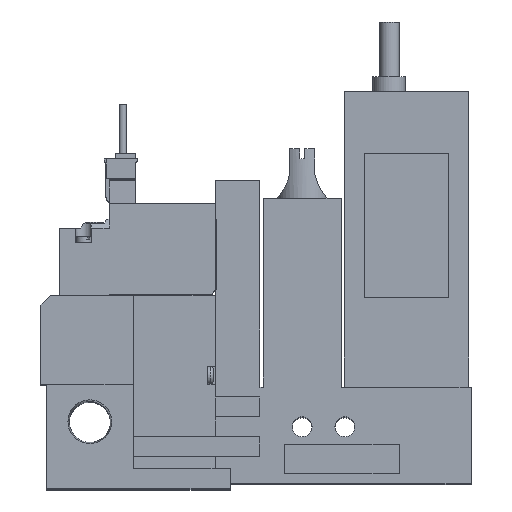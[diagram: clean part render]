
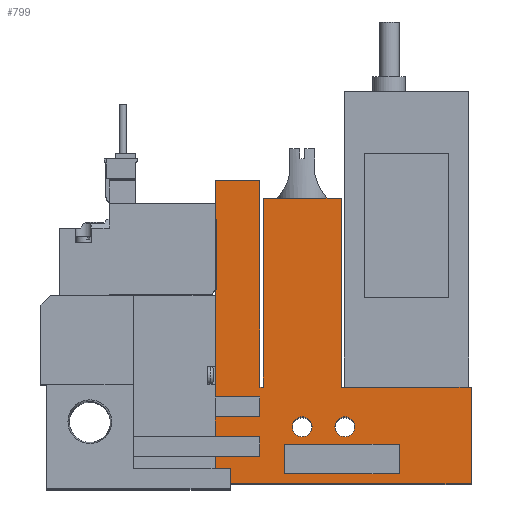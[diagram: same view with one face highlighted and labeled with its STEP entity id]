
A CAD part, top view. The second image highlights one B-rep face of the part: STEP entity #799.
In plain terms, the highlighted planar face has unit normal (0, 0, 1).
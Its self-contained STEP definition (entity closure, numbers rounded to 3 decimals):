
#799=ADVANCED_FACE('',(#1606,#1607,#1608,#1609),#1610,.T.);
#1606=FACE_OUTER_BOUND('',#2703,.T.);
#1607=FACE_BOUND('',#2704,.T.);
#1608=FACE_BOUND('',#2705,.T.);
#1609=FACE_BOUND('',#2706,.T.);
#1610=PLANE('',#2707);
#2703=EDGE_LOOP('',(#5546,#5547,#5548,#5549,#5550,#5551,#5552,#5553,#5554,#5555,#5556,#5557,#5558,#5559,#5560,#5561,#5562,#5563));
#2704=EDGE_LOOP('',(#5564,#5565,#5566,#5567));
#2705=EDGE_LOOP('',(#5568));
#2706=EDGE_LOOP('',(#5569));
#2707=AXIS2_PLACEMENT_3D('',#5570,#5571,#5572);
#5546=ORIENTED_EDGE('',*,*,#7562,.T.);
#5547=ORIENTED_EDGE('',*,*,#7504,.T.);
#5548=ORIENTED_EDGE('',*,*,#7462,.T.);
#5549=ORIENTED_EDGE('',*,*,#7561,.T.);
#5550=ORIENTED_EDGE('',*,*,#7559,.T.);
#5551=ORIENTED_EDGE('',*,*,#7467,.T.);
#5552=ORIENTED_EDGE('',*,*,#7546,.T.);
#5553=ORIENTED_EDGE('',*,*,#7563,.T.);
#5554=ORIENTED_EDGE('',*,*,#7564,.T.);
#5555=ORIENTED_EDGE('',*,*,#7496,.T.);
#5556=ORIENTED_EDGE('',*,*,#7565,.T.);
#5557=ORIENTED_EDGE('',*,*,#7566,.T.);
#5558=ORIENTED_EDGE('',*,*,#7506,.T.);
#5559=ORIENTED_EDGE('',*,*,#7567,.T.);
#5560=ORIENTED_EDGE('',*,*,#7457,.T.);
#5561=ORIENTED_EDGE('',*,*,#7530,.T.);
#5562=ORIENTED_EDGE('',*,*,#7568,.T.);
#5563=ORIENTED_EDGE('',*,*,#7569,.T.);
#5564=ORIENTED_EDGE('',*,*,#7570,.T.);
#5565=ORIENTED_EDGE('',*,*,#7571,.T.);
#5566=ORIENTED_EDGE('',*,*,#7572,.T.);
#5567=ORIENTED_EDGE('',*,*,#7573,.T.);
#5568=ORIENTED_EDGE('',*,*,#7574,.T.);
#5569=ORIENTED_EDGE('',*,*,#7480,.T.);
#5570=CARTESIAN_POINT('',(0.0,0.0,10.0));
#5571=DIRECTION('',(0.0,0.0,1.0));
#5572=DIRECTION('',(1.0,0.0,0.0));
#7457=EDGE_CURVE('',#9044,#9042,#9045,.T.);
#7462=EDGE_CURVE('',#9047,#9052,#9054,.T.);
#7467=EDGE_CURVE('',#9063,#9064,#9065,.T.);
#7480=EDGE_CURVE('',#9088,#9088,#9089,.T.);
#7496=EDGE_CURVE('',#9117,#9115,#9118,.T.);
#7504=EDGE_CURVE('',#9126,#9047,#9132,.T.);
#7506=EDGE_CURVE('',#9135,#9133,#9136,.T.);
#7530=EDGE_CURVE('',#9042,#9176,#9178,.T.);
#7546=EDGE_CURVE('',#9064,#9204,#9206,.T.);
#7559=EDGE_CURVE('',#9223,#9063,#9224,.T.);
#7561=EDGE_CURVE('',#9052,#9223,#9226,.T.);
#7562=EDGE_CURVE('',#9227,#9126,#9228,.T.);
#7563=EDGE_CURVE('',#9204,#9229,#9230,.T.);
#7564=EDGE_CURVE('',#9229,#9117,#9231,.T.);
#7565=EDGE_CURVE('',#9115,#9232,#9233,.T.);
#7566=EDGE_CURVE('',#9232,#9135,#9234,.T.);
#7567=EDGE_CURVE('',#9133,#9044,#9235,.T.);
#7568=EDGE_CURVE('',#9176,#9236,#9237,.T.);
#7569=EDGE_CURVE('',#9236,#9227,#9238,.T.);
#7570=EDGE_CURVE('',#9239,#9240,#9241,.T.);
#7571=EDGE_CURVE('',#9240,#9242,#9243,.T.);
#7572=EDGE_CURVE('',#9242,#9244,#9245,.T.);
#7573=EDGE_CURVE('',#9244,#9239,#9246,.T.);
#7574=EDGE_CURVE('',#9247,#9247,#9248,.T.);
#9042=VERTEX_POINT('',#11590);
#9044=VERTEX_POINT('',#11593);
#9045=LINE('',#11594,#11595);
#9047=VERTEX_POINT('',#11598);
#9052=VERTEX_POINT('',#11605);
#9054=LINE('',#11608,#11609);
#9063=VERTEX_POINT('',#11622);
#9064=VERTEX_POINT('',#11623);
#9065=LINE('',#11624,#11625);
#9088=VERTEX_POINT('',#11660);
#9089=CIRCLE('',#11661,2.0);
#9115=VERTEX_POINT('',#11698);
#9117=VERTEX_POINT('',#11701);
#9118=LINE('',#11702,#11703);
#9126=VERTEX_POINT('',#11715);
#9132=LINE('',#11724,#11725);
#9133=VERTEX_POINT('',#11726);
#9135=VERTEX_POINT('',#11729);
#9136=LINE('',#11730,#11731);
#9176=VERTEX_POINT('',#11792);
#9178=LINE('',#11795,#11796);
#9204=VERTEX_POINT('',#11832);
#9206=LINE('',#11835,#11836);
#9223=VERTEX_POINT('',#11865);
#9224=LINE('',#11866,#11867);
#9226=LINE('',#11870,#11871);
#9227=VERTEX_POINT('',#11872);
#9228=LINE('',#11873,#11874);
#9229=VERTEX_POINT('',#11875);
#9230=LINE('',#11876,#11877);
#9231=LINE('',#11878,#11879);
#9232=VERTEX_POINT('',#11880);
#9233=LINE('',#11881,#11882);
#9234=LINE('',#11883,#11884);
#9235=LINE('',#11885,#11886);
#9236=VERTEX_POINT('',#11887);
#9237=LINE('',#11888,#11889);
#9238=LINE('',#11890,#11891);
#9239=VERTEX_POINT('',#11892);
#9240=VERTEX_POINT('',#11893);
#9241=LINE('',#11894,#11895);
#9242=VERTEX_POINT('',#11896);
#9243=LINE('',#11897,#11898);
#9244=VERTEX_POINT('',#11899);
#9245=LINE('',#11900,#11901);
#9246=LINE('',#11902,#11903);
#9247=VERTEX_POINT('',#11904);
#9248=CIRCLE('',#11905,2.0);
#11590=CARTESIAN_POINT('',(44.75,19.5,10.0));
#11593=CARTESIAN_POINT('',(44.75,57.5,10.0));
#11594=CARTESIAN_POINT('',(44.75,57.5,10.0));
#11595=VECTOR('',#13684,1.0);
#11598=CARTESIAN_POINT('',(44.1,17.5,10.0));
#11605=CARTESIAN_POINT('',(44.1,13.5,10.0));
#11608=CARTESIAN_POINT('',(44.1,0.0,10.0));
#11609=VECTOR('',#13689,1.0);
#11622=CARTESIAN_POINT('',(35.1,9.5,10.0));
#11623=CARTESIAN_POINT('',(44.1,9.5,10.0));
#11624=CARTESIAN_POINT('',(0.0,9.5,10.0));
#11625=VECTOR('',#13694,1.0);
#11660=CARTESIAN_POINT('',(63.2,11.5,10.0));
#11661=AXIS2_PLACEMENT_3D('',#13707,#13708,#13709);
#11698=CARTESIAN_POINT('',(86.6,0.0,10.0));
#11701=CARTESIAN_POINT('',(35.1,0.0,10.0));
#11702=CARTESIAN_POINT('',(18.6,0.0,10.0));
#11703=VECTOR('',#13731,1.0);
#11715=CARTESIAN_POINT('',(35.1,17.5,10.0));
#11724=CARTESIAN_POINT('',(0.0,17.5,10.0));
#11725=VECTOR('',#13739,1.0);
#11726=CARTESIAN_POINT('',(60.45,57.5,10.0));
#11729=CARTESIAN_POINT('',(60.45,19.5,10.0));
#11730=CARTESIAN_POINT('',(60.45,19.5,10.0));
#11731=VECTOR('',#13741,1.0);
#11792=CARTESIAN_POINT('',(44.1,19.5,10.0));
#11795=CARTESIAN_POINT('',(44.75,19.5,10.0));
#11796=VECTOR('',#13767,1.0);
#11832=CARTESIAN_POINT('',(44.1,5.5,10.0));
#11835=CARTESIAN_POINT('',(44.1,0.0,10.0));
#11836=VECTOR('',#13791,1.0);
#11865=CARTESIAN_POINT('',(35.1,13.5,10.0));
#11866=CARTESIAN_POINT('',(35.1,0.0,10.0));
#11867=VECTOR('',#13804,1.0);
#11870=CARTESIAN_POINT('',(0.0,13.5,10.0));
#11871=VECTOR('',#13806,1.0);
#11872=CARTESIAN_POINT('',(35.1,61.0,10.0));
#11873=CARTESIAN_POINT('',(35.1,61.0,10.0));
#11874=VECTOR('',#13807,1.0);
#11875=CARTESIAN_POINT('',(35.1,5.5,10.0));
#11876=CARTESIAN_POINT('',(0.0,5.5,10.0));
#11877=VECTOR('',#13808,1.0);
#11878=CARTESIAN_POINT('',(35.1,0.0,10.0));
#11879=VECTOR('',#13809,1.0);
#11880=CARTESIAN_POINT('',(86.6,19.5,10.0));
#11881=CARTESIAN_POINT('',(86.6,0.0,10.0));
#11882=VECTOR('',#13810,1.0);
#11883=CARTESIAN_POINT('',(86.6,19.5,10.0));
#11884=VECTOR('',#13811,1.0);
#11885=CARTESIAN_POINT('',(60.45,57.5,10.0));
#11886=VECTOR('',#13812,1.0);
#11887=CARTESIAN_POINT('',(44.1,61.0,10.0));
#11888=CARTESIAN_POINT('',(44.1,19.5,10.0));
#11889=VECTOR('',#13813,1.0);
#11890=CARTESIAN_POINT('',(44.1,61.0,10.0));
#11891=VECTOR('',#13814,1.0);
#11892=CARTESIAN_POINT('',(49.1,2.0,10.0));
#11893=CARTESIAN_POINT('',(49.1,8.0,10.0));
#11894=CARTESIAN_POINT('',(49.1,0.0,10.0));
#11895=VECTOR('',#13815,1.0);
#11896=CARTESIAN_POINT('',(72.1,8.0,10.0));
#11897=CARTESIAN_POINT('',(0.0,8.0,10.0));
#11898=VECTOR('',#13816,1.0);
#11899=CARTESIAN_POINT('',(72.1,2.0,10.0));
#11900=CARTESIAN_POINT('',(72.1,0.0,10.0));
#11901=VECTOR('',#13817,1.0);
#11902=CARTESIAN_POINT('',(0.0,2.0,10.0));
#11903=VECTOR('',#13818,1.0);
#11904=CARTESIAN_POINT('',(54.6,11.5,10.0));
#11905=AXIS2_PLACEMENT_3D('',#13819,#13820,#13821);
#13684=DIRECTION('',(0.0,-1.0,0.0));
#13689=DIRECTION('',(0.0,-1.0,0.0));
#13694=DIRECTION('',(1.0,0.0,0.0));
#13707=CARTESIAN_POINT('',(61.2,11.5,10.0));
#13708=DIRECTION('',(0.0,0.0,-1.0));
#13709=DIRECTION('',(1.0,0.0,0.0));
#13731=DIRECTION('',(1.0,0.0,0.0));
#13739=DIRECTION('',(1.0,0.0,0.0));
#13741=DIRECTION('',(0.0,1.0,0.0));
#13767=DIRECTION('',(-1.0,0.0,0.0));
#13791=DIRECTION('',(0.0,-1.0,0.0));
#13804=DIRECTION('',(0.0,-1.0,0.0));
#13806=DIRECTION('',(-1.0,0.0,0.0));
#13807=DIRECTION('',(0.0,-1.0,0.0));
#13808=DIRECTION('',(-1.0,0.0,0.0));
#13809=DIRECTION('',(0.0,-1.0,0.0));
#13810=DIRECTION('',(0.0,1.0,0.0));
#13811=DIRECTION('',(-1.0,0.0,0.0));
#13812=DIRECTION('',(-1.0,0.0,0.0));
#13813=DIRECTION('',(0.0,1.0,0.0));
#13814=DIRECTION('',(-1.0,0.0,0.0));
#13815=DIRECTION('',(0.0,1.0,0.0));
#13816=DIRECTION('',(1.0,0.0,0.0));
#13817=DIRECTION('',(0.0,-1.0,0.0));
#13818=DIRECTION('',(-1.0,0.0,0.0));
#13819=CARTESIAN_POINT('',(52.6,11.5,10.0));
#13820=DIRECTION('',(0.0,0.0,-1.0));
#13821=DIRECTION('',(1.0,0.0,0.0));
